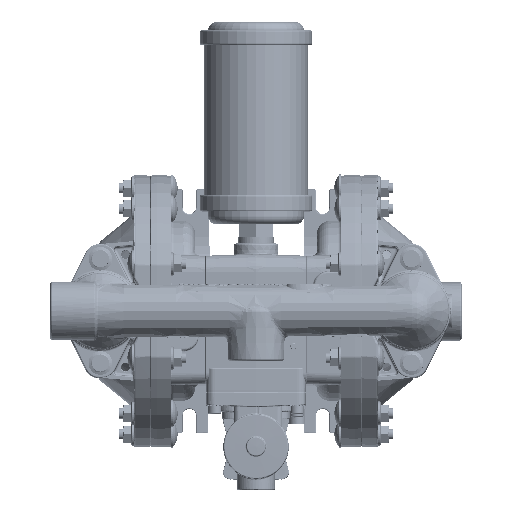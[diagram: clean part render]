
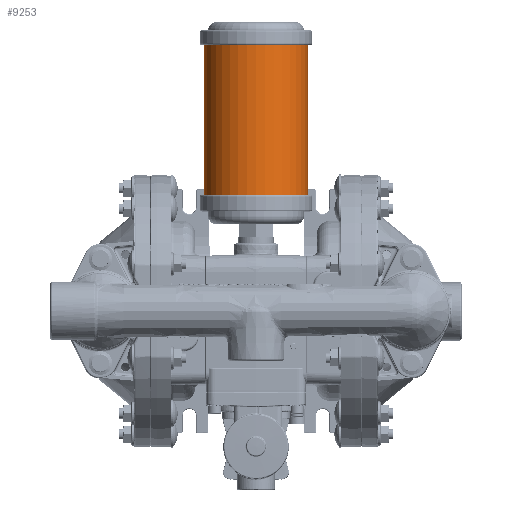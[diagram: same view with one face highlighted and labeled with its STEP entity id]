
A CAD part, top view. The second image highlights one B-rep face of the part: STEP entity #9253.
In plain terms, the highlighted cylindrical face has radius 39.688 mm (diameter 79.375 mm), a full revolution.
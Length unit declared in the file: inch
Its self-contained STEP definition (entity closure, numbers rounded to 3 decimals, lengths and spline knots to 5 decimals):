
#1654=CYLINDRICAL_SURFACE('',#177218,1.5625);
#9253=ADVANCED_FACE('',(#26656,#26657),#1654,.T.);
#23323=CIRCLE('',#176919,1.5625);
#23476=CIRCLE('',#177217,1.5625);
#26656=FACE_BOUND('',#40743,.T.);
#26657=FACE_BOUND('',#40744,.T.);
#40743=EDGE_LOOP('',(#69280));
#40744=EDGE_LOOP('',(#69281));
#69280=ORIENTED_EDGE('',*,*,#127193,.F.);
#69281=ORIENTED_EDGE('',*,*,#126836,.T.);
#108073=VERTEX_POINT('',#279558);
#108270=VERTEX_POINT('',#281951);
#126836=EDGE_CURVE('',#108073,#108073,#23323,.T.);
#127193=EDGE_CURVE('',#108270,#108270,#23476,.T.);
#176919=AXIS2_PLACEMENT_3D('',#279557,#199099,#199100);
#177217=AXIS2_PLACEMENT_3D('',#281950,#199755,#199756);
#177218=AXIS2_PLACEMENT_3D('',#281952,#199757,#199758);
#199099=DIRECTION('',(0.,-1.,0.));
#199100=DIRECTION('',(0.,0.,1.));
#199755=DIRECTION('',(0.,-1.,0.));
#199756=DIRECTION('',(0.,0.,1.));
#199757=DIRECTION('',(0.,-1.,0.));
#199758=DIRECTION('',(0.,0.,1.));
#279557=CARTESIAN_POINT('',(4.96846,6.3267,-2.68195));
#279558=CARTESIAN_POINT('',(4.96846,6.3267,-1.11945));
#281950=CARTESIAN_POINT('',(4.96846,1.8267,-2.68195));
#281951=CARTESIAN_POINT('',(4.96846,1.8267,-1.11945));
#281952=CARTESIAN_POINT('',(4.96846,4.0767,-2.68195));
